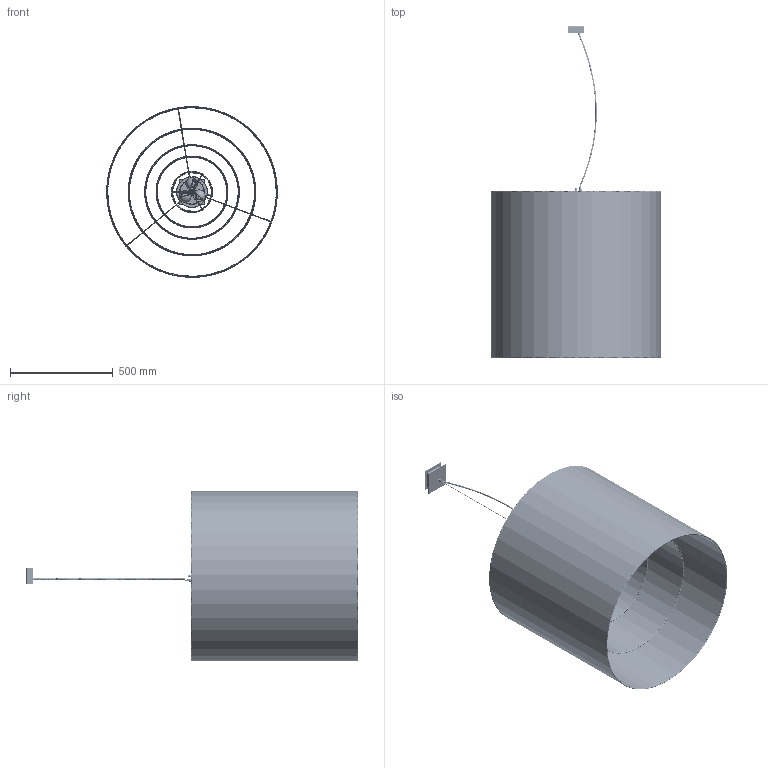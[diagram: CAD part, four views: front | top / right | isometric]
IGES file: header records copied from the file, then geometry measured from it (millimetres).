
Start section: SolidWorks IGES file using analytic representation for surfaces
Global section: file name: C:\Users\berta.gumma\OneDrive - santa &cole\Desktop\moaré chapa adaptadora,.IGS; native system: SolidWorks 2021; preprocessor: SolidWorks 2021; author: berta.gumma; date: 230912.104943; units: millimetre
Bounding box: 829.96 x 1613.5 x 829.99 mm (x, y, z)
Surface area: 9549681.2 mm2 (no closed solid volume)
Topology: 0 solids, 0 shells, 2753 faces, 27853 edges, 27829 vertices
Faces by surface type: revolution 1611, bspline 1142
